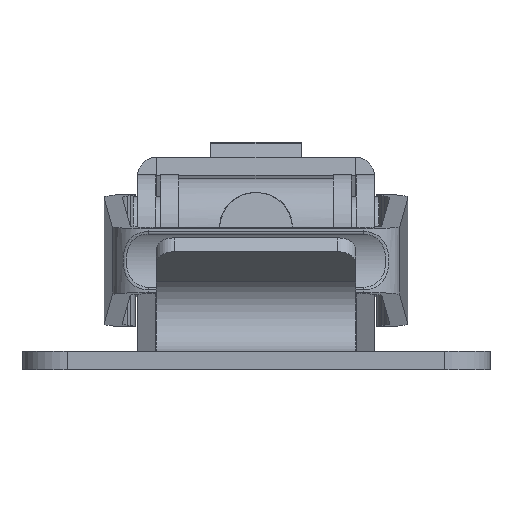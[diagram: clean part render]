
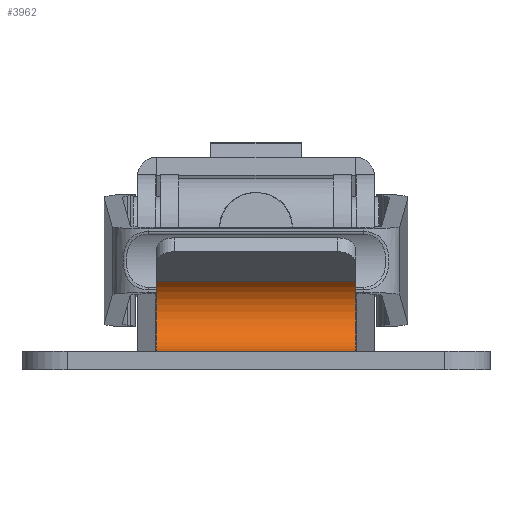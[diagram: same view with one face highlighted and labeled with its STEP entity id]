
A CAD part, left-side view. The second image highlights one B-rep face of the part: STEP entity #3962.
In plain terms, the highlighted cylindrical face has radius 4.333 mm (diameter 8.665 mm), a partial arc.
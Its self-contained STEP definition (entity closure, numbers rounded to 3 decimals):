
#239=CYLINDRICAL_SURFACE('',#4305,4.333);
#393=CIRCLE('',#4276,4.333);
#404=CIRCLE('',#4297,4.333);
#601=FACE_OUTER_BOUND('',#857,.T.);
#857=EDGE_LOOP('',(#3103,#3104,#3105,#3106));
#1120=LINE('',#6513,#1429);
#1140=LINE('',#6574,#1449);
#1429=VECTOR('',#5030,22.);
#1449=VECTOR('',#5098,22.);
#1778=VERTEX_POINT('',#6490);
#1779=VERTEX_POINT('',#6492);
#1786=VERTEX_POINT('',#6512);
#1800=VERTEX_POINT('',#6556);
#2238=EDGE_CURVE('',#1778,#1779,#393,.T.);
#2248=EDGE_CURVE('',#1779,#1786,#1120,.T.);
#2271=EDGE_CURVE('',#1786,#1800,#404,.T.);
#2280=EDGE_CURVE('',#1778,#1800,#1140,.T.);
#3103=ORIENTED_EDGE('',*,*,#2271,.F.);
#3104=ORIENTED_EDGE('',*,*,#2248,.F.);
#3105=ORIENTED_EDGE('',*,*,#2238,.F.);
#3106=ORIENTED_EDGE('',*,*,#2280,.T.);
#3962=ADVANCED_FACE('',(#601),#239,.F.);
#4276=AXIS2_PLACEMENT_3D('',#6493,#5011,#5012);
#4297=AXIS2_PLACEMENT_3D('',#6557,#5075,#5076);
#4305=AXIS2_PLACEMENT_3D('',#6573,#5096,#5097);
#5011=DIRECTION('center_axis',(0.,0.,-1.));
#5012=DIRECTION('ref_axis',(0.,1.,0.));
#5030=DIRECTION('',(0.,0.,-1.));
#5075=DIRECTION('center_axis',(0.,0.,1.));
#5076=DIRECTION('ref_axis',(0.,1.,0.));
#5096=DIRECTION('center_axis',(0.,0.,1.));
#5097=DIRECTION('ref_axis',(0.,1.,0.));
#5098=DIRECTION('',(0.,0.,-1.));
#6490=CARTESIAN_POINT('',(-3.548,9.651,11.));
#6492=CARTESIAN_POINT('',(-6.333,2.,11.));
#6493=CARTESIAN_POINT('Origin',(-6.333,6.333,11.));
#6512=CARTESIAN_POINT('',(-6.333,2.,-11.));
#6513=CARTESIAN_POINT('',(-6.333,2.,0.));
#6556=CARTESIAN_POINT('',(-3.548,9.651,-11.));
#6557=CARTESIAN_POINT('Origin',(-6.333,6.333,-11.));
#6573=CARTESIAN_POINT('Origin',(-6.333,6.333,0.));
#6574=CARTESIAN_POINT('',(-3.548,9.651,0.));
